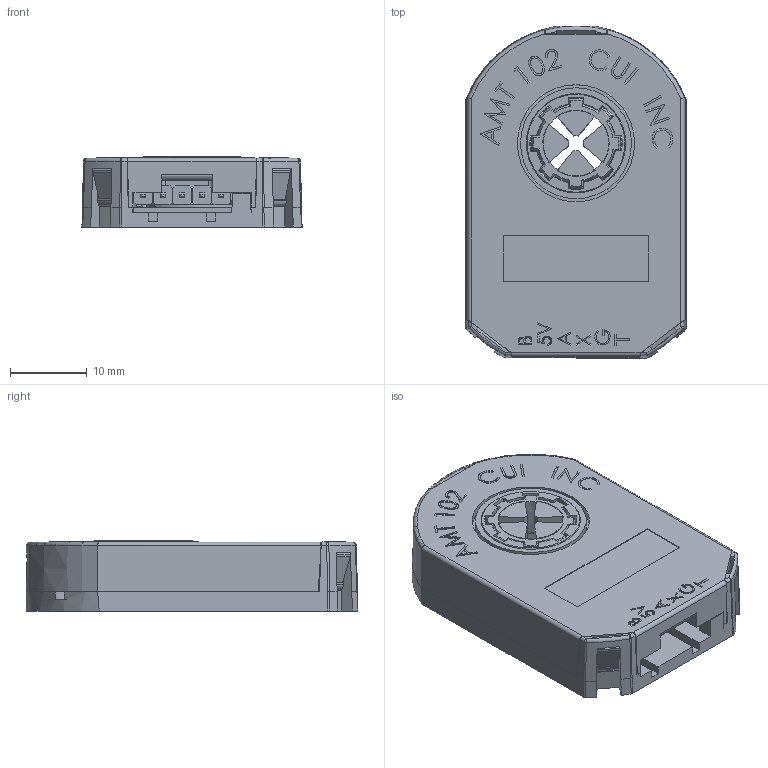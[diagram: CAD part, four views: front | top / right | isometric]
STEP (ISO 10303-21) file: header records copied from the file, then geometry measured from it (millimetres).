
FILE_DESCRIPTION (( 'STEP AP214' ), '1' );
FILE_NAME ('CUI_AMT102-0048-I2000-S.step', '2018-05-11T13:27:26', ( '' ), ( '' ), 'SwSTEP 2.0', 'SolidWorks 2018', '' );
FILE_SCHEMA (( 'AUTOMOTIVE_DESIGN' ));
Length unit declared in the file: millimetre
Products named in the file (10): AMT-Hub-Top-REV-D1; AMT-Hub-Bottom-REV-B; AMT-Sleeve-REV-D_ 2 mm; AMT10X-Shaft-Adaptor-REV-E; Rotor-board-REV F; AMT-102-Top-Cover-REV-H; Receiver-board; AMT-102-Base-REV-K; CUI_AMT102-0048-I2000-S; Transmitter-board AMT10_AMT-102
Assembly tree (9 placements, depth 2):
  CUI_AMT102-0048-I2000-S
    AMT-102-Base-REV-K
    AMT-102-Top-Cover-REV-H
    AMT-Sleeve-REV-D_ 2 mm
    AMT-Hub-Top-REV-D1
    AMT-Hub-Bottom-REV-B
    AMT10X-Shaft-Adaptor-REV-E
    Receiver-board
    Rotor-board-REV F
    Transmitter-board AMT10_AMT-102
Bounding box: 28.77 x 43.38 x 9.15 mm (x, y, z)
Volume: 5920.3 mm3; surface area: 12310.3 mm2
Topology: 15 solids, 15 shells, 1626 faces, 4434 edges, 2882 vertices
Faces by surface type: plane 993, cylinder 334, cone 178, bspline 88, torus 21, sphere 12
Entity records: 69336 total; most frequent: CARTESIAN_POINT 16098, ORIENTED_EDGE 8852, DIRECTION 7928, EDGE_CURVE 4426, VERTEX_POINT 2880, LINE 2744, VECTOR 2744, AXIS2_PLACEMENT_3D 2592
